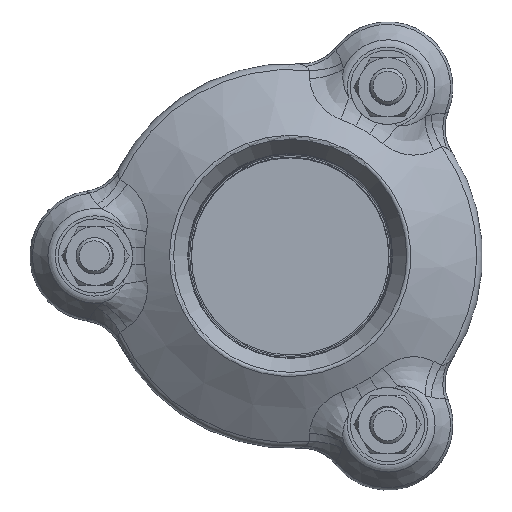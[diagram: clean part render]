
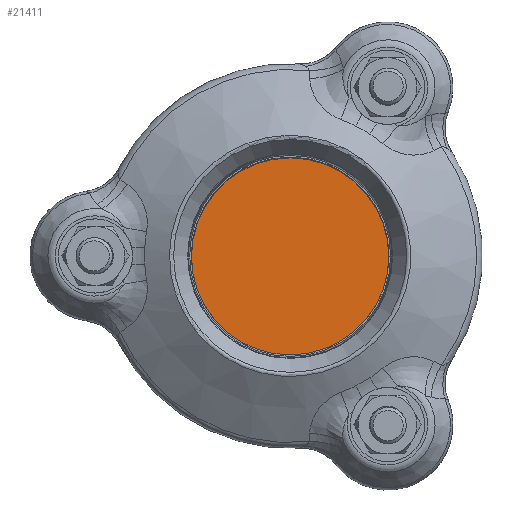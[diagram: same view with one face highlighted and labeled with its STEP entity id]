
A CAD part, top view. The second image highlights one B-rep face of the part: STEP entity #21411.
In plain terms, the highlighted planar face has unit normal (0, 0, 1).
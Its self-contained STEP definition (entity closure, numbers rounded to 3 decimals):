
#542=CARTESIAN_POINT('',(0.0,31.927,20.));
#543=VERTEX_POINT('',#542);
#544=CARTESIAN_POINT('',(0.0,0.,20.0));
#545=DIRECTION('',(0.0,0.,1.0));
#546=DIRECTION('',(-1.0,0.0,0.0));
#547=AXIS2_PLACEMENT_3D('',#544,#545,#546);
#548=CIRCLE('',#547,31.927);
#549=EDGE_CURVE('',#543,#543,#548,.T.);
#21403=CARTESIAN_POINT('',(-0.092,-0.055,20.0));
#21404=DIRECTION('',(0.0,0.0,1.0));
#21405=DIRECTION('',(1.0,0.0,0.0));
#21406=AXIS2_PLACEMENT_3D('',#21403,#21404,#21405);
#21407=PLANE('',#21406);
#21408=ORIENTED_EDGE('',*,*,#549,.T.);
#21409=EDGE_LOOP('',(#21408));
#21410=FACE_OUTER_BOUND('',#21409,.T.);
#21411=ADVANCED_FACE('',(#21410),#21407,.T.);
